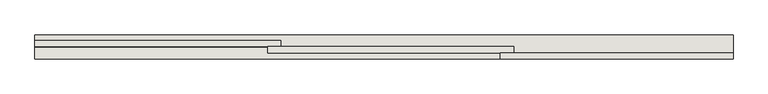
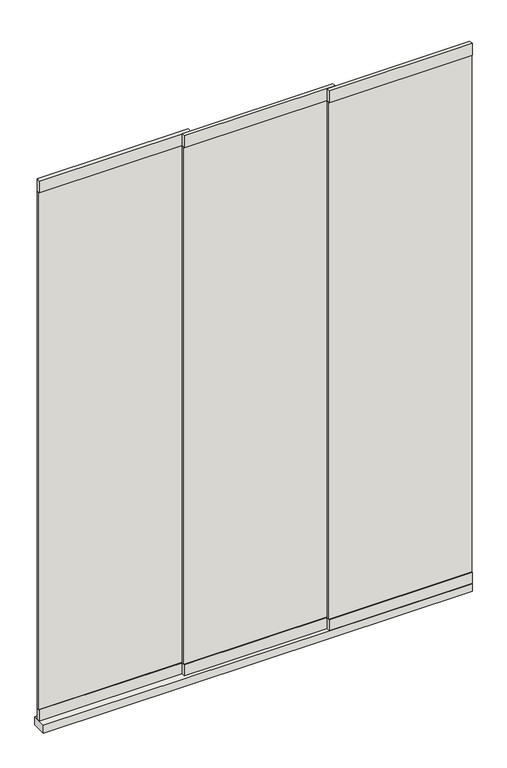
"""IFC4 building model written with IfcOpenShell, lengths in millimetres: wall geometry, Renson_Camargue_Glass_Sliding_Panel : Renson_Camargue_Glass_Sliding_Panel."""

from ifc_helpers import new_model, si_unit, frame, origin, origin_with_axes, place, context, project, spatial, polyline, outline, extrude, source, transform, mapped, element, save


def wall_3cf4a07c(model_context):
    return source(origin(), model_context, "Body", "SweptSolid", [
        extrude(outline(polyline([(750.0, 0.0), (-1100.0, 0.0), (-1100.0, 64.0), (750.0, 64.0), (750.0, 0.0)])), origin_with_axes(), (0.0, 0.0, 1.0), 35.0),
        extrude(outline(polyline([(750.0, 3.0), (133.3333333, 3.0), (133.3333333, 13.0), (750.0, 13.0), (750.0, 3.0)])), frame((0.0, 0.0, 86.0), z_axis=(0.0, 0.0, 1.0), x_axis=(1.0, 0.0, 0.0)), (0.0, 0.0, 1.0), 2360.0),
        extrude(outline(polyline([(168.3333333, 19.0), (-483.3333333, 19.0), (-483.3333333, 29.0), (168.3333333, 29.0), (168.3333333, 19.0)])), frame((0.0, 0.0, 86.0), z_axis=(0.0, 0.0, 1.0), x_axis=(1.0, 0.0, 0.0)), (0.0, 0.0, 1.0), 2360.0),
        extrude(outline(polyline([(-448.3333333, 35.0), (-1100.0, 35.0), (-1100.0, 45.0), (-448.3333333, 45.0), (-448.3333333, 35.0)])), frame((0.0, 0.0, 86.0), z_axis=(0.0, 0.0, 1.0), x_axis=(1.0, 0.0, 0.0)), (0.0, 0.0, 1.0), 2360.0),
        extrude(outline(polyline([(750.0, 0.0), (133.3333333, 0.0), (133.3333333, 16.0), (750.0, 16.0), (750.0, 0.0)])), frame((0.0, 0.0, 2446.0), z_axis=(0.0, 0.0, 1.0), x_axis=(1.0, 0.0, 0.0)), (0.0, 0.0, 1.0), 54.0),
        extrude(outline(polyline([(168.3333333, 16.0), (-483.3333333, 16.0), (-483.3333333, 32.0), (168.3333333, 32.0), (168.3333333, 16.0)])), frame((0.0, 0.0, 2446.0), z_axis=(0.0, 0.0, 1.0), x_axis=(1.0, 0.0, 0.0)), (0.0, 0.0, 1.0), 54.0),
        extrude(outline(polyline([(-448.3333333, 32.0), (-1100.0, 32.0), (-1100.0, 48.0), (-448.3333333, 48.0), (-448.3333333, 32.0)])), frame((0.0, 0.0, 2446.0), z_axis=(0.0, 0.0, 1.0), x_axis=(1.0, 0.0, 0.0)), (0.0, 0.0, 1.0), 54.0),
        extrude(outline(polyline([(750.0, 0.0), (133.3333333, 0.0), (133.3333333, 16.0), (750.0, 16.0), (750.0, 0.0)])), frame((0.0, 0.0, 35.0), z_axis=(0.0, 0.0, 1.0), x_axis=(1.0, 0.0, 0.0)), (0.0, 0.0, 1.0), 51.0),
        extrude(outline(polyline([(168.3333333, 16.0), (-483.3333333, 16.0), (-483.3333333, 32.0), (168.3333333, 32.0), (168.3333333, 16.0)])), frame((0.0, 0.0, 35.0), z_axis=(0.0, 0.0, 1.0), x_axis=(1.0, 0.0, 0.0)), (0.0, 0.0, 1.0), 51.0),
        extrude(outline(polyline([(-448.3333333, 32.0), (-1100.0, 32.0), (-1100.0, 48.0), (-448.3333333, 48.0), (-448.3333333, 32.0)])), frame((0.0, 0.0, 35.0), z_axis=(0.0, 0.0, 1.0), x_axis=(1.0, 0.0, 0.0)), (0.0, 0.0, 1.0), 51.0),
    ])


if __name__ == "__main__":
    model = new_model("IFC4")
    model_context = context("Model", 3, world=origin())
    ifc_project = project(units=[si_unit("LENGTHUNIT", "METRE", prefix="MILLI")], contexts=[model_context])
    site = spatial("IfcSite", under=ifc_project)
    building = spatial("IfcBuilding", under=site)
    placement = place(None, origin())
    wall_shape = wall_3cf4a07c(model_context)
    element("IfcWall", 1, ObjectType="Renson_Camargue_Glass_Sliding_Panel : Renson_Camargue_Glass_Sliding_Panel", at=placement, inside=building, context=model_context, shape_type="MappedRepresentation", body=[
        mapped(wall_shape, transform((0.0, 0.0, 0.0), x_axis=(1.0, 0.0, 0.0), y_axis=(0.0, 1.0, 0.0), z_axis=(0.0, 0.0, 1.0))),
    ])
    save(model, "model.ifc")
